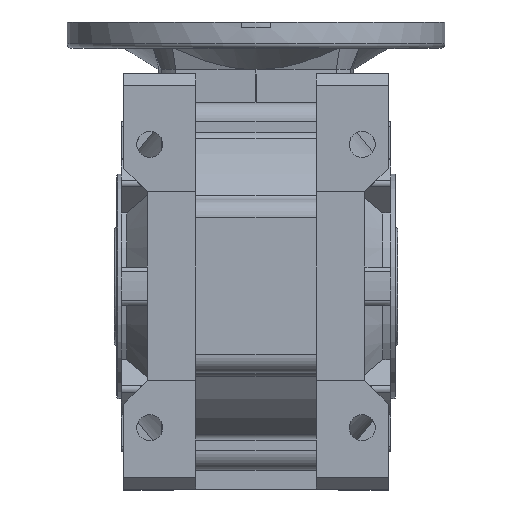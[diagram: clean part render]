
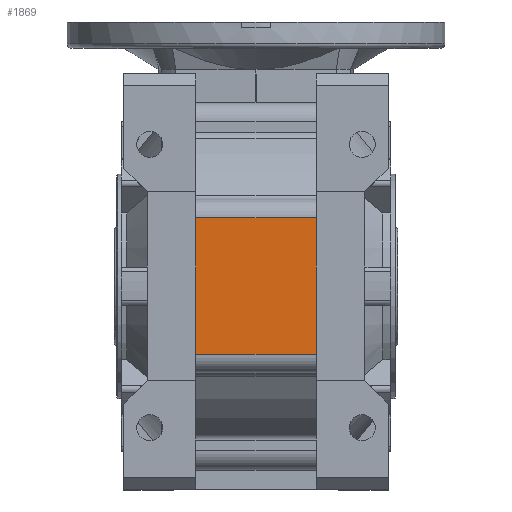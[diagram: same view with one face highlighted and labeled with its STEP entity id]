
A CAD part, top view. The second image highlights one B-rep face of the part: STEP entity #1869.
In plain terms, the highlighted planar face has unit normal (0, 0, 1).
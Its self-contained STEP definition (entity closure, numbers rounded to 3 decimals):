
#1869 = ADVANCED_FACE( '', ( #3963 ), #3964, .T. );
#3963 = FACE_OUTER_BOUND( '', #6190, .T. );
#3964 = PLANE( '', #6191 );
#6190 = EDGE_LOOP( '', ( #11768, #11769, #11770, #11771 ) );
#6191 = AXIS2_PLACEMENT_3D( '', #11772, #11773, #11774 );
#11768 = ORIENTED_EDGE( '', *, *, #15102, .F. );
#11769 = ORIENTED_EDGE( '', *, *, #14956, .F. );
#11770 = ORIENTED_EDGE( '', *, *, #14991, .T. );
#11771 = ORIENTED_EDGE( '', *, *, #14274, .T. );
#11772 = CARTESIAN_POINT( '', ( 25.5, -46.105, -12.25 ) );
#11773 = DIRECTION( '', ( 0., 0., 1. ) );
#11774 = DIRECTION( '', ( -1., 0., 0. ) );
#14274 = EDGE_CURVE( '', #17673, #17671, #17674, .T. );
#14956 = EDGE_CURVE( '', #18553, #18551, #18555, .T. );
#14991 = EDGE_CURVE( '', #18553, #17673, #18591, .T. );
#15102 = EDGE_CURVE( '', #18551, #17671, #18715, .T. );
#17671 = VERTEX_POINT( '', #23036 );
#17673 = VERTEX_POINT( '', #23038 );
#17674 = LINE( '', #23039, #23040 );
#18551 = VERTEX_POINT( '', #24626 );
#18553 = VERTEX_POINT( '', #24628 );
#18555 = LINE( '', #24630, #24631 );
#18591 = LINE( '', #24690, #24691 );
#18715 = LINE( '', #24889, #24890 );
#23036 = CARTESIAN_POINT( '', ( -25.5, -46.105, -12.25 ) );
#23038 = CARTESIAN_POINT( '', ( 25.5, -46.105, -12.25 ) );
#23039 = CARTESIAN_POINT( '', ( 25.5, -46.105, -12.25 ) );
#23040 = VECTOR( '', #26920, 1000. );
#24626 = CARTESIAN_POINT( '', ( -25.5, -103.895, -12.25 ) );
#24628 = CARTESIAN_POINT( '', ( 25.5, -103.895, -12.25 ) );
#24630 = CARTESIAN_POINT( '', ( 25.5, -103.895, -12.25 ) );
#24631 = VECTOR( '', #27622, 1000. );
#24690 = CARTESIAN_POINT( '', ( 25.5, -46.105, -12.25 ) );
#24691 = VECTOR( '', #27646, 1000. );
#24889 = CARTESIAN_POINT( '', ( -25.5, -46.105, -12.25 ) );
#24890 = VECTOR( '', #27748, 1000. );
#26920 = DIRECTION( '', ( -1., 0., 0. ) );
#27622 = DIRECTION( '', ( -1., 0., 0. ) );
#27646 = DIRECTION( '', ( 0., 1., 0. ) );
#27748 = DIRECTION( '', ( 0., 1., 0. ) );
